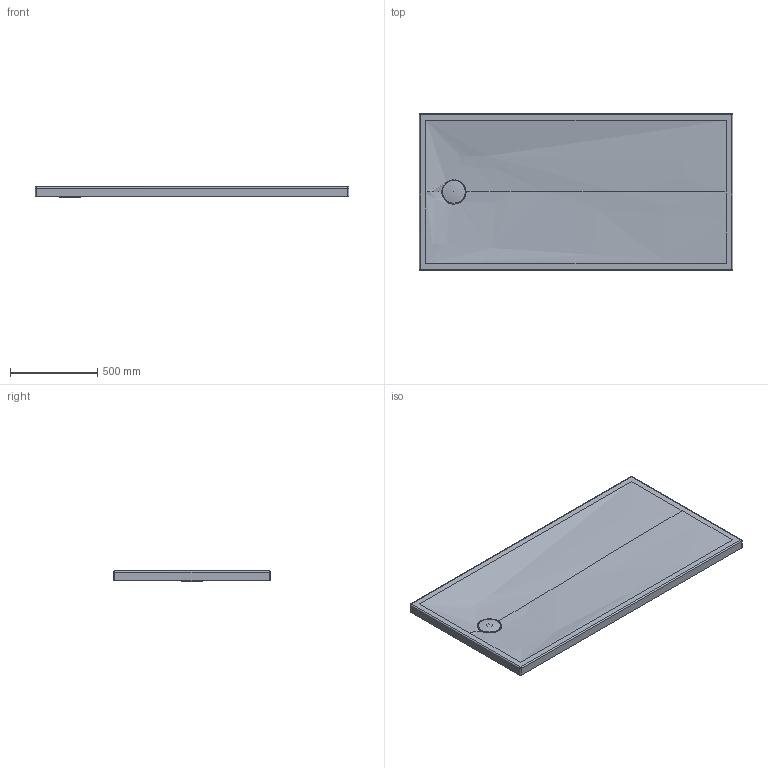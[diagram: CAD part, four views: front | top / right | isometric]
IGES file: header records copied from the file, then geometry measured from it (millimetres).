
Global section: file name: D:\01_Planungsdaten\_news19\W&W\Tempano\720213\3D\720213.igs; native system: Rhinoceros ( Sep 13 2016 ); preprocessor: Trout Lake IGES 012 Sep 13 2016; date: 190305.093851; units: millimetre
Bounding box: 1800 x 900 x 59.04 mm (x, y, z)
Surface area: 1953373.3 mm2 (no closed solid volume)
Topology: 0 solids, 0 shells, 34 faces, 239 edges, 234 vertices
Faces by surface type: bspline 34
